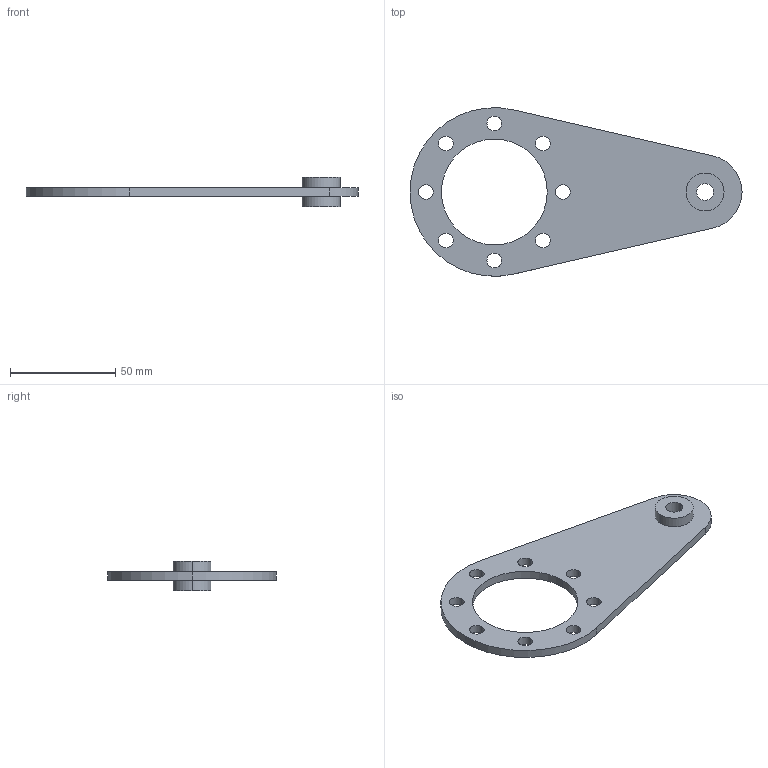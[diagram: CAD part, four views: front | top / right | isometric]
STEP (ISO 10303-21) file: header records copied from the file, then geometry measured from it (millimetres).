
FILE_DESCRIPTION (( 'STEP AP203' ), '1' );
FILE_NAME ('momentnaFB30-45_1002321_0.STEP', '2025-12-29T11:47:58', ( '' ), ( '' ), 'SwSTEP 2.0', 'SolidWorks 2024', '' );
FILE_SCHEMA (( 'CONFIG_CONTROL_DESIGN' ));
Length unit declared in the file: millimetre
Products named in the file (1): momentnaFB30-45_1002321_0
Bounding box: 157.5 x 79.84 x 14 mm (x, y, z)
Volume: 28254.5 mm3; surface area: 16901 mm2
Topology: 1 solids, 1 shells, 33 faces, 87 edges, 58 vertices
Faces by surface type: cylinder 27, plane 6
Entity records: 1172 total; most frequent: DIRECTION 209, CARTESIAN_POINT 179, ORIENTED_EDGE 174, AXIS2_PLACEMENT_3D 88, EDGE_CURVE 87, VERTEX_POINT 58, EDGE_LOOP 55, CIRCLE 54
